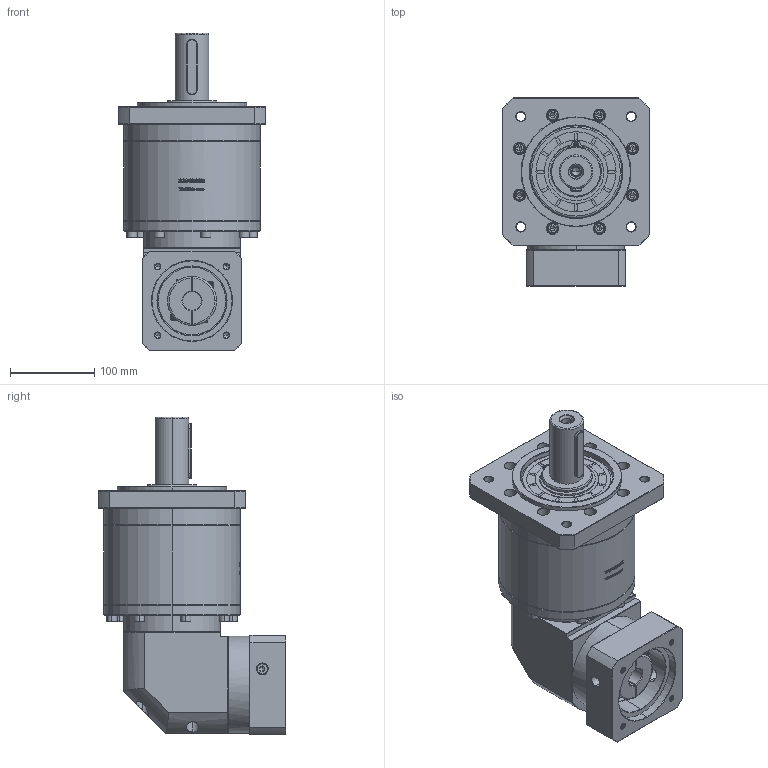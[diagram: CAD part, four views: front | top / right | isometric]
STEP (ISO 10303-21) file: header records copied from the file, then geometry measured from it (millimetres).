
FILE_DESCRIPTION (( 'STEP AP214' ), '1' );
FILE_NAME ('ZFR160A-D40-L3-22-95-115-M8.step', '2023-03-25T01:57:05', ( '' ), ( '' ), 'SwSTEP 2.0', 'SolidWorks 2016', '' );
FILE_SCHEMA (( 'AUTOMOTIVE_DESIGN' ));
Length unit declared in the file: millimetre
Products named in the file (1): ZFR160A-D40-L3-22-95-115-M8
Bounding box: 175 x 222.4 x 376.2 mm (x, y, z)
Volume: 5644506.4 mm3; surface area: 359428 mm2
Topology: 6 solids, 6 shells, 2784 faces, 7260 edges, 4649 vertices
Faces by surface type: plane 1373, bspline 498, cylinder 496, cone 371, torus 46
Entity records: 150169 total; most frequent: CARTESIAN_POINT 55587, ORIENTED_EDGE 14412, DIRECTION 11386, EDGE_CURVE 7206, VERTEX_POINT 4649, LINE 4502, VECTOR 4502, AXIS2_PLACEMENT_3D 3442
